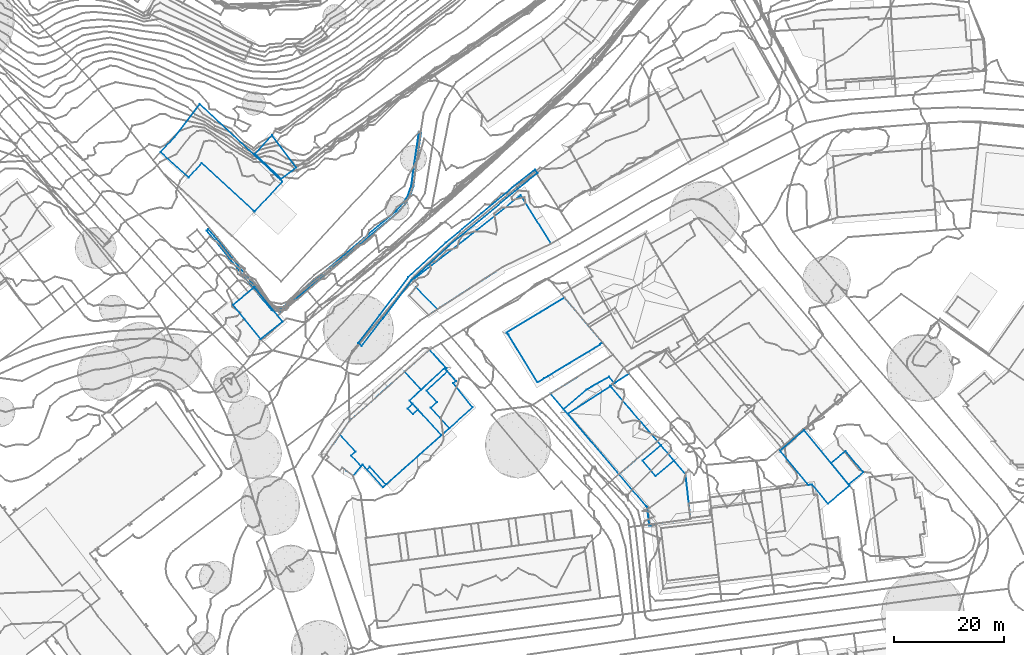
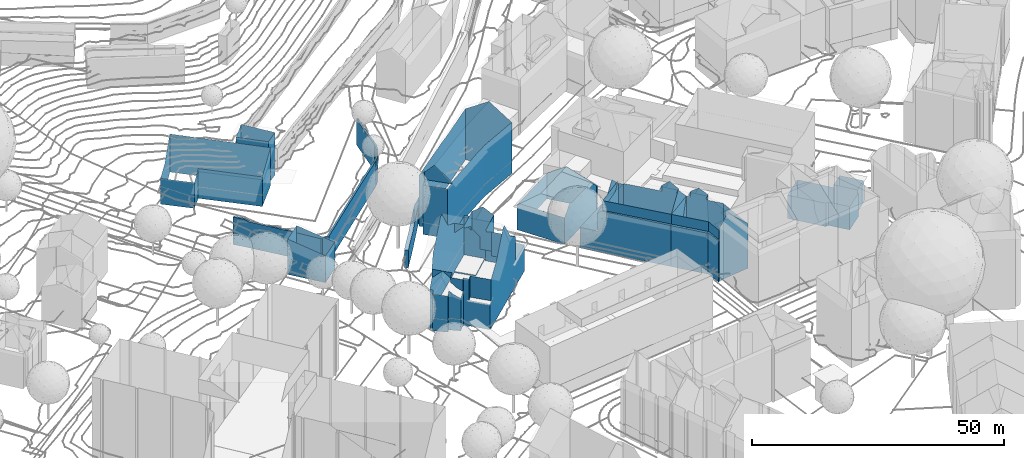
# Not in any storey, part 44 of 494: 12 walls.
"""IFC2X3 model written with IfcOpenShell, lengths in metres."""

import ifcopenshell
import ifcopenshell.guid

model = None  # the IFC model being written
_history = None  # IfcOwnerHistory: only IFC2X3 demands one
_inside = {}  # id of a spatial element -> (the spatial element, [elements in it])
_under = {}  # id of a project, library or spatial element -> (it, [spatial elements below it])
_declared = {}  # id of a project -> (the project, [libraries it declares])
_typed = {}  # id of a type object -> (the type object, [elements of that type])
_made_of = {}  # id of a material, layer set ... -> (it, [elements and type objects made of it])


def new_model(schema):
    """Start an empty IFC model of exactly this schema.

    Asked for "IFC4X3", IfcOpenShell would pick the latest addendum, in which some entities
    have other attributes; the version numbers below select the first issue.
    IFC2X3 requires an IfcOwnerHistory on every rooted entity: one is made here for all.
    """
    global model, _history
    if schema == "IFC4X3":
        model = ifcopenshell.file(schema_version=(4, 3, 0, 0))
    else:
        model = ifcopenshell.file(schema=schema)
    _inside.clear()
    _under.clear()
    _declared.clear()
    _typed.clear()
    _made_of.clear()
    _history = None
    if model.schema == "IFC2X3":
        org = make("IfcOrganization", Name="unknown")
        user = make(
            "IfcPersonAndOrganization",
            ThePerson=make("IfcPerson", FamilyName="unknown"),
            TheOrganization=org,
        )
        app = make(
            "IfcApplication",
            ApplicationDeveloper=org,
            Version="unknown",
            ApplicationFullName="unknown",
            ApplicationIdentifier="unknown",
        )
        _history = make(
            "IfcOwnerHistory",
            OwningUser=user,
            OwningApplication=app,
            ChangeAction="ADDED",
            CreationDate=0,
        )
    return model


def make(cls, **values):
    """One entity of the class cls with the attributes given. An attribute that is None is left unset."""
    return model.create_entity(
        cls, **{name: value for name, value in values.items() if value is not None}
    )


def rooted(cls, **values):
    """An entity with a GlobalId (a new one), such as an element, a storey or a relation."""
    return make(cls, GlobalId=ifcopenshell.guid.new(), OwnerHistory=_history, **values)


def si_unit(unit_type, name, prefix=None):
    """IfcSIUnit, for example si_unit("LENGTHUNIT", "METRE", prefix="MILLI")."""
    return make("IfcSIUnit", UnitType=unit_type, Prefix=prefix, Name=name)


def assignment(units):
    """IfcUnitAssignment: the units of a project."""
    return None if units is None else make("IfcUnitAssignment", Units=units)


def point(xyz):
    """IfcCartesianPoint."""
    return None if xyz is None else make("IfcCartesianPoint", Coordinates=xyz)


def direction(xyz):
    """IfcDirection."""
    return None if xyz is None else make("IfcDirection", DirectionRatios=xyz)


def frame(location, z_axis=None, x_axis=None):
    """IfcAxis2Placement3D, a coordinate frame: its origin and axes. An axis left out is left unset."""
    return make(
        "IfcAxis2Placement3D",
        Location=point(location),
        Axis=direction(z_axis),
        RefDirection=direction(x_axis),
    )


def origin_with_axes():
    """The frame at (0, 0, 0) with the z axis (0, 0, 1) and the x axis (1, 0, 0) written out."""
    return frame((0.0, 0.0, 0.0), z_axis=(0.0, 0.0, 1.0), x_axis=(1.0, 0.0, 0.0))


def place(relative_to, where):
    """IfcLocalPlacement: puts the frame where relative to a parent placement (None: the world)."""
    return make(
        "IfcLocalPlacement", PlacementRelTo=relative_to, RelativePlacement=where
    )


def context(
    kind, dimensions, precision=None, world=None, true_north=None, identifier=None
):
    """IfcGeometricRepresentationContext, for example the 3D "Model" context."""
    return make(
        "IfcGeometricRepresentationContext",
        ContextIdentifier=identifier,
        ContextType=kind,
        CoordinateSpaceDimension=dimensions,
        Precision=precision,
        WorldCoordinateSystem=world,
        TrueNorth=true_north,
    )


def subcontext(parent, identifier, kind, view, scale=None):
    """IfcGeometricRepresentationSubContext, for example "Body" below "Model"."""
    return make(
        "IfcGeometricRepresentationSubContext",
        ContextIdentifier=identifier,
        ContextType=kind,
        ParentContext=parent,
        TargetScale=scale,
        TargetView=view,
    )


def project(units=None, contexts=None):
    """IfcProject with its units and contexts."""
    return rooted(
        "IfcProject",
        Name="project",
        RepresentationContexts=contexts,
        UnitsInContext=assignment(units),
    )


def faces_of(points, faces, orient=None, outer=None):
    """IfcFace entities. A face is a list of loops; a loop is a list of indices into points, from 0.

    orient and outer hold one flag for each loop. By default every Orientation is true, the
    first loop of a face is its IfcFaceOuterBound and the others are IfcFaceBound.
    """
    made = []
    for i, loops in enumerate(faces):
        bounds = []
        for j, loop in enumerate(loops):
            is_outer = j == 0 if outer is None else outer[i][j]
            bounds.append(
                make(
                    "IfcFaceOuterBound" if is_outer else "IfcFaceBound",
                    Bound=make("IfcPolyLoop", Polygon=[points[k] for k in loop]),
                    Orientation=True if orient is None else orient[i][j],
                )
            )
        made.append(make("IfcFace", Bounds=bounds))
    return made


def faceted_brep(points, faces, orient=None, outer=None, voids=None):
    """IfcFacetedBrep: a solid bounded by flat faces; with voids (closed shells), ...WithVoids."""
    shared = [point(p) for p in points]
    hull = make("IfcClosedShell", CfsFaces=faces_of(shared, faces, orient, outer))
    if voids is None:
        return make("IfcFacetedBrep", Outer=hull)
    return make(
        "IfcFacetedBrepWithVoids",
        Outer=hull,
        Voids=[
            make(cls, CfsFaces=faces_of(shared, fs, o, b)) for cls, fs, o, b in voids
        ],
    )


def shape(context_of_items, identifier, shape_type, items):
    """IfcShapeRepresentation: the items that make up one representation, for example the "Body"."""
    return make(
        "IfcShapeRepresentation",
        ContextOfItems=context_of_items,
        RepresentationIdentifier=identifier,
        RepresentationType=shape_type,
        Items=items,
    )


def made_of(thing, what):
    """Note that an element or type object is made of a material, layer set ...; save() writes the relation."""
    if what is not None:
        _made_of.setdefault(what.id(), (what, []))[1].append(thing)
    return thing


def element(
    cls,
    number,
    at=None,
    inside=None,
    cuts=None,
    type_object=None,
    material=None,
    context=None,
    identifier="Body",
    shape_type=None,
    held_by="IfcProductDefinitionShape",
    body=None,
    shapes=None,
    **own,
):
    """One element of the class cls, such as IfcWall. Its Tag is "e" and its number.

    at: its placement. inside: the storey or other place that contains it. cuts: it is an
    opening in that element (IfcRelVoidsElement). A single representation is given by context,
    identifier, shape_type and body (its items); several are given by shapes. held_by: the class
    of the entity that holds the representations. save() writes the other relations.
    """
    e = rooted(cls, Tag="e%d" % number, ObjectPlacement=at, **own)
    if body is not None:
        shapes = [shape(context, identifier, shape_type, body)]
    if shapes is not None:
        e.Representation = make(held_by, Representations=shapes)
    if inside is not None:
        _inside.setdefault(inside.id(), (inside, []))[1].append(e)
    if cuts is not None:
        rooted(
            "IfcRelVoidsElement", RelatingBuildingElement=cuts, RelatedOpeningElement=e
        )
    if type_object is not None:
        _typed.setdefault(type_object.id(), (type_object, []))[1].append(e)
    return made_of(e, material)


def aggregate(whole, parts):
    """IfcRelAggregates: a whole, such as a stair, and the parts it consists of."""
    return rooted("IfcRelAggregates", RelatingObject=whole, RelatedObjects=parts)


def save(model, path):
    """Write the relations noted so far, then the file.

    IfcRelAggregates (storeys below a building ...), IfcRelContainedInSpatialStructure (elements
    in a storey), IfcRelDefinesByType, IfcRelAssociatesMaterial and IfcRelDeclares: one each for
    every whole, place, type object, material and project.
    """
    for whole, parts in _under.values():
        aggregate(whole, parts)
    for where, things in _inside.values():
        rooted(
            "IfcRelContainedInSpatialStructure",
            RelatedElements=things,
            RelatingStructure=where,
        )
    for kind, things in _typed.values():
        rooted("IfcRelDefinesByType", RelatedObjects=things, RelatingType=kind)
    for what, things in _made_of.values():
        rooted("IfcRelAssociatesMaterial", RelatedObjects=things, RelatingMaterial=what)
    for by, libraries in _declared.values():
        rooted("IfcRelDeclares", RelatingContext=by, RelatedDefinitions=libraries)
    model.write(path)


model = new_model("IFC2X3")

# Units and contexts
model_context = context("Model", 3, precision=1e-05, world=origin_with_axes())
body_context = subcontext(model_context, "Body", "Model", "MODEL_VIEW")
ifc_project = project(units=[si_unit("AREAUNIT", "SQUARE_METRE"), si_unit("LENGTHUNIT", "METRE")], contexts=[model_context])

# Walls
wall_1_placement = place(None, frame((211.8297320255, 101.9383160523, 526.7541), z_axis=(0.0, 0.0, 1.0), x_axis=(1.0, 0.0, 0.0)))
element("IfcWall", 1, at=wall_1_placement, Name="Wall 7", context=body_context, shape_type="Brep", body=[
    faceted_brep([(230.3049999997, 142.3515000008, -15.6225), (224.5700000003, 149.4979999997, -21.8519), (230.3049999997, 142.3515000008, -21.8519), (224.887000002, 149.7558000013, -15.5485), (230.6209999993, 142.6094000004, -15.6225), (224.887000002, 149.7558000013, -21.8519), (224.5700000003, 149.4979999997, -15.5485), (223.8020000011, 150.4354999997, -21.8519), (224.1130000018, 150.6992000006, -15.1775), (224.1130000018, 150.6992000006, -21.8519), (223.8020000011, 150.4354999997, -15.1775), (222.3390000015, 152.1053999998, -15.1775), (222.6460000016, 152.3729999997, -15.1775), (222.6460000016, 152.3729999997, -21.8519), (222.3390000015, 152.1055000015, -21.8519), (234.1660000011, 137.6680000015, -15.8445), (234.1660000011, 137.6680000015, -21.8519), (234.381000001, 138.0487999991, -15.8445), (230.6209999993, 142.6094000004, -21.8519), (235.6790000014, 137.8515000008, -21.8519), (234.381000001, 138.0487999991, -21.8519), (251.1520000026, 150.495099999, -15.6225), (235.8020000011, 137.4208999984, -15.6965), (251.1520000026, 150.495099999, -21.8519), (235.6790000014, 137.8515000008, -15.6965), (250.8890000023, 150.807599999, -21.8519), (235.8020000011, 137.4208999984, -21.8519), (257.0040000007, 155.3935000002, -15.6225), (257.0040000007, 155.3935000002, -21.8519), (258.4030000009, 156.9530999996, -15.6225), (258.4030000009, 156.9530999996, -21.8519), (259.2550000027, 158.433600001, -15.6225), (259.2550000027, 158.433600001, -21.8519), (259.8830000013, 160.2391999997, -15.6225), (259.8830000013, 160.2391999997, -21.8519), (260.3660000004, 163.8740000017, -15.6225), (260.3660000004, 163.8740000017, -21.8519), (259.4840000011, 160.3339999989, -15.6225), (259.9620000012, 163.9316000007, -15.6225), (259.4840000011, 160.3339999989, -21.8519), (258.882000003, 158.6044999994, -15.6225), (258.882000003, 158.6044999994, -21.8519), (258.0700000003, 157.1942999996, -15.6225), (258.0700000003, 157.1942999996, -21.8519), (256.7200000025, 155.6875, -15.6225), (256.7200000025, 155.6875, -21.8519), (250.8890000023, 150.807599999, -15.6225), (261.2530000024, 169.8222000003, -15.5485), (261.2530000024, 169.8222000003, -21.8519), (260.8489999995, 169.8828000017, -15.5485), (260.8489999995, 169.8828000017, -21.8519), (259.9620000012, 163.9316000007, -21.8519)], [[[0, 1, 2]], [[3, 4, 5]], [[6, 7, 1]], [[8, 3, 9]], [[10, 11, 7]], [[12, 8, 13]], [[11, 12, 14]], [[15, 2, 16]], [[4, 17, 18]], [[17, 19, 20]], [[21, 22, 23]], [[24, 25, 19]], [[22, 15, 26]], [[27, 21, 28]], [[29, 27, 30]], [[31, 29, 32]], [[33, 31, 34]], [[35, 33, 36]], [[37, 38, 39]], [[40, 37, 41]], [[42, 40, 43]], [[44, 42, 45]], [[46, 44, 25]], [[47, 35, 48]], [[49, 47, 50]], [[38, 50, 51]], [[6, 1, 0]], [[4, 18, 5]], [[10, 7, 6]], [[3, 5, 9]], [[11, 14, 7]], [[8, 9, 13]], [[12, 13, 14]], [[0, 2, 15]], [[17, 20, 18]], [[24, 19, 17]], [[22, 26, 23]], [[46, 25, 24]], [[15, 16, 26]], [[21, 23, 28]], [[27, 28, 30]], [[29, 30, 32]], [[31, 32, 34]], [[33, 34, 36]], [[38, 51, 39]], [[37, 39, 41]], [[40, 41, 43]], [[42, 43, 45]], [[44, 45, 25]], [[35, 36, 48]], [[47, 48, 50]], [[49, 50, 38]]]),
])
wall_2_placement = place(None, frame((211.8297320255, 101.9383160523, 526.7541), z_axis=(0.0, 0.0, 1.0), x_axis=(1.0, 0.0, 0.0)))
element("IfcWall", 2, at=wall_2_placement, Name="Wall 10", context=body_context, shape_type="Brep", body=[
    faceted_brep([(250.4350000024, 131.2080000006, -20.3871), (249.8320000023, 131.75, -20.3871), (250.4350000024, 131.2080000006, -24.7557), (254.3800000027, 136.2890000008, -20.4351), (254.3800000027, 136.2890000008, -24.7557), (253.7380000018, 136.7811999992, -20.4351), (249.8320000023, 131.75, -24.7557), (258.9550000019, 143.6981999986, -24.7556), (253.7380000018, 136.7811999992, -24.7557), (259.5580000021, 143.1543000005, -20.2511), (259.5580000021, 143.1543000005, -24.7556), (266.2190000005, 149.3291000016, -20.0661), (266.2190000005, 149.3291000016, -24.7556), (258.9550000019, 143.6981999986, -20.2511), (265.688000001, 149.9393999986, -24.7556), (265.688000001, 149.9393999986, -20.0661), (272.2770000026, 155.3280999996, -24.7556), (272.7919999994, 154.7050999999, -19.7901), (272.7919999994, 154.7050999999, -24.7556), (272.2770000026, 155.3280999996, -19.7901), (278.2740000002, 160.3418000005, -24.7556), (278.7850000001, 159.7148000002, -19.5141), (278.7850000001, 159.7148000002, -24.7556), (278.2740000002, 160.3418000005, -19.5141), (281.9240000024, 163.2490000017, -24.7556), (282.4279999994, 162.6162, -19.3302), (282.4279999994, 162.6162, -24.7556), (281.9240000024, 163.2490000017, -19.3302)], [[[0, 1, 2]], [[3, 2, 4]], [[1, 5, 6]], [[5, 7, 8]], [[9, 3, 10]], [[11, 9, 12]], [[13, 14, 7]], [[15, 16, 14]], [[17, 11, 18]], [[19, 20, 16]], [[21, 17, 22]], [[23, 24, 20]], [[25, 21, 26]], [[27, 25, 24]], [[1, 6, 2]], [[0, 2, 3]], [[5, 8, 6]], [[13, 7, 5]], [[3, 4, 10]], [[9, 10, 12]], [[15, 14, 13]], [[19, 16, 15]], [[11, 12, 18]], [[23, 20, 19]], [[17, 18, 22]], [[27, 24, 23]], [[21, 22, 26]], [[25, 26, 24]]]),
])
wall_3_placement = place(None, frame((509.0277320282, 209.8641160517, 500.1695), z_axis=(0.0, 0.0, 1.0), x_axis=(1.0, 0.0, 0.0)))
element("IfcWall", 3, at=wall_3_placement, Name="Wall 0", context=body_context, shape_type="Brep", body=[
    faceted_brep([(5.6979999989, -9.128899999, 6.2784), (5.7099999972, -9.2265999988, 9.4261), (5.7249999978, -9.3515999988, 0.0), (5.6979999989, -9.128899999, 0.0), (5.6979999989, -9.128899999, 12.5658), (5.6979999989, -9.128899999, 9.4221), (5.7249999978, -9.3515999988, 12.5738), (5.7249999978, -9.3515999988, 9.4301), (12.0689999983, 0.0302000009, 10.974), (12.9749999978, -8.1699999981, 10.842), (12.0689999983, 0.0302000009, 5.4545), (12.9749999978, -8.1699999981, 0.0), (12.0689999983, 0.0302000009, 0.0), (12.9749999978, -8.1699999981, 8.0992), (12.9749999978, -8.1699999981, 2.6118), (5.3200000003, -5.7509999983, 12.4798), (0.2079999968, 0.1787, 12.4798), (5.3200000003, -5.7509999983, 10.1831), (0.2089999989, 0.1777000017, 10.1091), (5.2179999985, -5.6338, 10.1091), (4.2829999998, 2.4598999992, 0.0), (7.5979999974, 5.2714000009, 0.0), (4.2829999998, 2.4598999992, -0.036), (6.5099999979, 4.3486000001, 12.3829), (7.5979999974, 5.2714000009, 12.3829), (7.5979999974, 5.2714999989, 11.027), (9.9829999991, 2.4756000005, 0.0), (6.6600000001, -0.3438000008, 0.0), (9.9829999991, 2.4756000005, -0.036), (9.9829999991, 2.4756000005, 12.3828), (8.9100000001, 1.5654000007, 12.3828), (9.9829999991, 2.4756000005, 11.045), (5.0979999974, -5.9970999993, 0.0), (5.0979999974, -5.9970999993, 9.9841), (4.9479999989, -5.8213, 0.0), (4.9479999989, -5.8213, 9.8761), (0.0, 0.0, 0.0), (0.0, 0.0, 9.9131), (5.5069999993, -9.3759999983, 10.0611), (5.4809999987, -9.1572999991, 10.0561), (5.5069999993, -9.3759999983, 0.0), (5.4809999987, -9.1572999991, 0.0), (5.6569999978, -9.3594000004, 12.4798), (5.6569999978, -9.3594000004, 10.184), (11.2359999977, -8.3993999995, 0.0), (7.9239999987, -8.8359999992, 0.0), (6.435999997, -9.0313000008, 0.0), (11.2359999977, -8.3993999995, 12.4798), (7.9239999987, -8.8359999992, 15.6195), (0.9890000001, 0.8456999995, 0.0), (3.3189999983, 2.8379000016, 0.0), (3.3189999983, 2.8379000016, 15.6195), (6.993999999, 5.9794999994, 11.022), (6.993999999, 5.9794999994, 0.0), (6.6600000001, -0.3438000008, -0.036), (8.7029999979, 3.9756000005, 13.5887), (8.7029999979, 3.9756000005, -0.036), (11.9649999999, 0.1523000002, 11.06), (7.5979999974, 5.2714000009, -0.036)], [[[0, 1, 2]], [[3, 0, 2]], [[4, 1, 5]], [[0, 5, 1]], [[6, 7, 1]], [[8, 9, 10]], [[10, 11, 12]], [[9, 13, 10]], [[10, 14, 11]], [[15, 16, 17]], [[17, 18, 19]], [[20, 21, 22]], [[23, 24, 25]], [[26, 27, 28]], [[29, 30, 31]], [[32, 33, 34]], [[34, 33, 35]], [[35, 36, 34]], [[36, 35, 37]], [[38, 39, 40]], [[40, 39, 41]], [[41, 33, 32]], [[33, 41, 39]], [[6, 42, 43]], [[43, 38, 7]], [[7, 38, 2]], [[43, 7, 6]], [[2, 38, 40]], [[44, 11, 14]], [[0, 45, 14]], [[45, 44, 14]], [[0, 46, 45]], [[46, 0, 3]], [[47, 48, 4]], [[9, 47, 13]], [[13, 0, 14]], [[0, 13, 5]], [[5, 13, 47]], [[47, 4, 5]], [[49, 36, 37]], [[50, 49, 37]], [[37, 18, 50]], [[16, 51, 52]], [[52, 53, 50]], [[52, 18, 16]], [[52, 50, 18]], [[43, 15, 17]], [[15, 43, 42]], [[54, 27, 20]], [[20, 22, 54]], [[25, 55, 29]], [[10, 25, 31]], [[25, 29, 31]], [[25, 21, 53]], [[25, 24, 55]], [[25, 53, 52]], [[25, 56, 21]], [[31, 57, 10]], [[56, 25, 10]], [[21, 56, 58]], [[12, 26, 10]], [[26, 28, 56]], [[10, 26, 56]], [[10, 57, 8]], [[6, 1, 4]], [[7, 2, 1]], [[13, 14, 10]], [[16, 18, 17]], [[21, 58, 22]], [[27, 54, 28]]]),
])
wall_4_placement = place(None, frame((547.5217320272, 211.8914160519, 499.8985), z_axis=(0.0, 0.0, 1.0), x_axis=(1.0, 0.0, 0.0)))
element("IfcWall", 4, at=wall_4_placement, Name="Wall 0", context=body_context, shape_type="Brep", body=[
    faceted_brep([(2.6569999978, 2.1856000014, 5.3795), (5.8509999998, -1.6992000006, 5.3795), (2.6569999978, 2.1856000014, 0.0), (0.0, 0.0, 5.3795), (0.0, 0.0, 0.0), (3.1939999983, -3.8847999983, 5.3795), (3.1939999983, -3.8847999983, 0.0), (5.8509999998, -1.6992000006, 0.0)], [[[0, 1, 2]], [[3, 0, 4]], [[5, 3, 6]], [[1, 5, 7]], [[1, 7, 2]], [[0, 2, 4]], [[3, 4, 6]], [[5, 6, 7]]]),
])
wall_5_placement = place(None, frame((538.2627320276, 214.1619160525, 498.9856), z_axis=(0.0, 0.0, 1.0), x_axis=(1.0, 0.0, 0.0)))
element("IfcWall", 5, at=wall_5_placement, Name="Wall 0", context=body_context, shape_type="Brep", body=[
    faceted_brep([(5.1739999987, -6.253899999, 5.6425), (0.0, 0.0, 5.6425), (5.1739999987, -6.253899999, 0.0), (5.8339999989, -6.1689000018, 5.6425), (5.8339999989, -6.1689000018, 0.0), (8.699000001, -9.6191000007, 5.6425), (8.699000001, -9.6191000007, 0.0), (12.6369999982, -6.378899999, 5.6425), (12.6369999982, -6.378899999, 0.0), (4.3709999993, 3.6757999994, 5.6425), (4.3709999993, 3.6757999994, 0.0), (0.0, 0.0, 0.0)], [[[0, 1, 2]], [[3, 0, 4]], [[5, 3, 6]], [[7, 5, 8]], [[9, 7, 10]], [[1, 9, 11]], [[1, 11, 2]], [[0, 2, 4]], [[3, 4, 6]], [[5, 6, 8]], [[7, 8, 10]], [[9, 10, 11]]]),
])
wall_6_placement = place(None, frame((496.6027320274, 224.4773160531, 500.1476), z_axis=(0.0, 0.0, 1.0), x_axis=(1.0, 0.0, 0.0)))
element("IfcWall", 6, at=wall_6_placement, Name="Wall 0", context=body_context, shape_type="Brep", body=[
    faceted_brep([(3.2009999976, -3.495099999, 10.131), (3.2009999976, -3.495099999, 12.5018), (3.381000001, -3.3641999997, 10.289), (8.25, 0.1601999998, 10.7389), (9.2129999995, 0.8574999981, 12.5018), (12.6329999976, -14.4345000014, 12.5017), (12.6329999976, -14.4345000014, 10.131), (14.9749999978, -5.6699000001, 12.4048), (16.0869999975, -4.7265000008, 12.4048), (16.0869999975, -4.7265000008, 11.0179), (18.3859999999, -7.4228000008, 12.4048), (17.2879999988, -8.3535000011, 12.4048), (18.3859999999, -7.4228000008, 11.0359), (11.3509999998, 7.0665000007, 4.9925), (14.2529999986, 3.6387000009, 4.9925), (11.3509999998, 7.0665000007, 0.0), (0.0, 0.0, 4.9925), (0.0, 0.0, 0.0), (10.8959999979, 1.3594999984, 0.0221), (3.1209999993, -3.6709000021, 0.0221), (10.8959999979, 1.3594999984, 0.0001), (3.1209999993, -3.6709000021, 0.0), (2.3889999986, -2.8095000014, 9.3461), (6.5099999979, 0.7432000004, 4.9925), (2.3889999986, -2.8095000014, 4.9925), (17.129999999, -5.9492000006, 13.8246), (10.8440000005, 1.4199999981, 10.9779), (10.8440000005, 1.4199999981, 0.0), (19.4189999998, -8.633700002, 0.0219), (19.4189999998, -8.633700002, 11.0439), (11.5889999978, 1.9052999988, 4.9925), (14.2529999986, 3.6387000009, 0.0), (11.5889999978, 1.9052999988, 10.14), (12.4250000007, -14.6123000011, 0.0219), (12.4250000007, -14.6123000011, 9.936), (2.873999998, -3.3808000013, 10.008), (15.743999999, -11.7752999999, 15.6414), (15.743999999, -11.7752999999, 0.0219), (12.6329999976, -14.4345000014, 0.0219), (8.3939999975, 1.808600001, 4.9925), (10.5979999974, 3.0557000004, 10.14), (10.5979999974, 3.0557000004, 4.9925), (6.5099999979, 0.7432000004, 9.3461), (8.3939999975, 1.808600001, 12.5018)], [[[0, 1, 2]], [[1, 3, 2]], [[3, 1, 4]], [[5, 0, 6]], [[7, 8, 9]], [[10, 11, 12]], [[13, 14, 15]], [[16, 13, 17]], [[18, 19, 20]], [[19, 21, 20]], [[22, 23, 24]], [[8, 12, 9]], [[10, 8, 25]], [[18, 26, 9]], [[27, 26, 18]], [[18, 20, 27]], [[9, 12, 28]], [[29, 28, 12]], [[18, 9, 28]], [[12, 8, 10]], [[30, 31, 14]], [[30, 26, 27]], [[26, 30, 32]], [[19, 33, 24]], [[21, 19, 17]], [[33, 34, 24]], [[35, 22, 24]], [[24, 16, 17]], [[24, 17, 19]], [[35, 24, 34]], [[36, 5, 6]], [[28, 29, 37]], [[6, 29, 36]], [[34, 29, 6]], [[33, 38, 29]], [[37, 29, 38]], [[34, 33, 29]], [[39, 23, 40]], [[41, 39, 40]], [[42, 43, 40]], [[42, 40, 23]], [[1, 0, 5]], [[14, 31, 15]], [[13, 15, 17]], [[40, 30, 41]], [[30, 40, 32]], [[42, 23, 22]], [[27, 31, 30]]]),
])
wall_7_placement = place(None, frame((488.6637320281, 235.6004160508, 500.5996), z_axis=(0.0, 0.0, 1.0), x_axis=(1.0, 0.0, 0.0)))
element("IfcWall", 7, at=wall_7_placement, Name="Wall 0", context=body_context, shape_type="Brep", body=[
    faceted_brep([(8.1730000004, -7.5165999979, -0.0001), (7.4959999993, -7.9257999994, 8.8011), (7.5289999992, -7.9052999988, -0.0001), (11.7060000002, -5.3847999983, -0.0001), (10.674999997, -6.0067999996, 8.3551), (8.0629999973, -7.5839999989, 8.3581), (6.7960000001, -8.3486000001, -0.0001), (6.7989999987, -8.3466999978, 7.9512), (5.5909999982, -9.0761999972, 6.4773), (5.5909999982, -9.0761999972, -0.0001), (3.6600000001, -5.9403999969, -0.0001), (2.4509999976, -3.9774999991, 6.4903), (0.2669999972, -0.431599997, 0.0), (0.2759999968, -0.4463, 6.4983), (0.0, 0.0, 0.0), (5.7469999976, 3.4736000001, 6.2084), (6.4139999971, 3.876000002, 0.0), (0.0, 0.0, 6.1634), (10.4849999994, 6.3359000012, 0.0), (0.175999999, -0.2851999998, 6.3763), (10.4849999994, 6.3359000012, 6.2464), (13.1089999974, 3.2393000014, 8.8011), (16.9409999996, -2.2245999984, 6.0794), (16.8889999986, -2.1386999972, -0.0001), (16.8889999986, -2.1386999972, 6.0854), (16.9409999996, -2.2245999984, -0.0001), (17.4029999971, -1.8290999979, -0.0001), (17.2309999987, -1.932599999, 5.7124), (14.8599999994, -3.4804999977, 8.3521), (15.0130000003, -3.3876999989, -0.0001), (17.3189999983, -1.8798999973, 5.7124), (17.4029999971, -1.8290999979, 5.7114)], [[[0, 1, 2]], [[3, 4, 0]], [[4, 5, 0]], [[6, 7, 8]], [[6, 8, 9]], [[10, 8, 11]], [[10, 9, 8]], [[11, 12, 10]], [[11, 13, 12]], [[14, 15, 16]], [[14, 17, 15]], [[15, 18, 16]], [[12, 13, 19]], [[18, 20, 21]], [[22, 23, 24]], [[22, 25, 23]], [[23, 26, 27]], [[24, 23, 27]], [[28, 29, 22]], [[22, 29, 25]], [[30, 27, 26]], [[21, 26, 18]], [[31, 26, 21]], [[7, 2, 1]], [[28, 4, 3]], [[5, 1, 0]], [[2, 7, 6]], [[20, 18, 15]], [[19, 14, 12]], [[17, 14, 19]], [[29, 28, 3]], [[26, 31, 30]]]),
])
wall_8_placement = place(None, frame((455.8447320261, 213.3826160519, 501.6645), z_axis=(0.0, 0.0, 1.0), x_axis=(1.0, 0.0, 0.0)))
element("IfcWall", 8, at=wall_8_placement, Name="Wall 0", context=body_context, shape_type="Brep", body=[
    faceted_brep([(20.1680000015, 9.5879000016, 14.5735), (19.012000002, 8.5196000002, 11.5318), (20.1680000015, 9.5879000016, 5.7334), (16.694000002, 6.376000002, 13.6366), (19.012000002, 8.5196000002, 5.7334), (16.186999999, 5.9072000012, 14.5735), (17.074000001, 12.9345999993, 14.5736), (13.6000000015, 9.7217000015, 13.6366), (13.0930000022, 9.2529999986, 14.5736), (16.6270000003, 12.5205000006, 11.3569), (17.074000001, 12.9345999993, 10.348), (16.6270000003, 12.5205000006, 10.348), (23.1070000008, 12.9658000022, 5.7334), (26.618999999, 8.6055000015, 5.7334), (23.1070000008, 12.9658000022, -0.623), (23.5980000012, 13.4081999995, 5.7334), (23.5980000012, 13.4081999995, -0.623), (21.6150000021, 15.8379000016, -0.304), (21.7829999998, 15.6572000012, -0.304), (21.6150000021, 15.8379000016, -0.623), (15.1530000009, 9.8632999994, -0.623), (15.1530000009, 9.8632999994, -0.601), (17.2719999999, 11.822300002, -0.601), (17.7190000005, 12.2362999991, -0.301), (17.2719999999, 11.822300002, -0.304), (20.9640000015, 3.5791000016, -0.623), (16.6730000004, 8.2188000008, -0.601), (20.9640000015, 3.5791000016, -0.601), (15.7219999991, 9.2481000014, -0.301), (15.7219999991, 9.2481000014, -0.601), (16.6730000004, 8.2188000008, -0.301), (14.2829999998, 15.0547000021, 11.3569), (15.9030000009, 13.3027999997, 11.3569), (14.2829999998, 15.0547000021, 9.0111), (7.943, -2.1805999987, -0.601), (7.943, -2.1805999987, -0.383), (7.4279999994, -2.6581999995, -0.601), (7.4279999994, -2.6581999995, -0.383), (4.5920000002, -0.1327999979, 10.8069), (5.3770000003, 0.5938000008, 9.619), (4.5920000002, -0.1327999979, 9.704), (6.3650000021, -2.0507999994, -0.0001), (4.5920000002, -0.1327999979, 0.0), (6.3650000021, -2.0507999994, -0.601), (5.3770000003, 0.5938000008, 0.0), (2.5340000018, 3.6689999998, 0.0), (5.3770000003, 0.5938000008, -0.601), (10.8940000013, -5.3720000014, -0.383), (10.8940000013, -5.3720000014, -0.601), (7.943, -2.1805999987, 11.2499), (7.4279999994, -2.6581999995, 10.9589), (7.943, -2.1805999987, 6.1014), (10.8940000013, -5.3720000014, 11.2499), (10.8940000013, -5.3720000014, 6.1014), (0.0, 0.0, 4.7085), (0.4869999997, -0.3984000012, 0.0), (0.0, 0.0, 7.0623), (0.0, 0.0, 2.3537), (0.0, 0.0, 0.0), (0.0030000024, -0.9853000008, 0.0), (0.4869999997, -0.3984000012, 9.3981), (2.4530000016, -2.9120999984, -0.0001), (2.4530000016, -2.9120999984, 8.7371), (0.0030000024, -0.9853000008, 8.7781), (2.9230000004, -2.3134999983, 9.3581), (4.5920000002, -0.1327999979, -0.601), (6.3650000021, -2.0507999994, 7.9192), (6.3650000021, -2.0507999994, 10.8069), (5.4479999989, -1.058600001, 8.6451), (4.0590000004, 2.0196000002, 11.2499), (2.5340000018, 3.6689999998, 11.2499), (2.5340000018, 3.6689999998, 9.1651), (5.3770000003, 0.5938000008, 11.2499), (14.8150000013, 8.4092000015, -0.301), (15.7659999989, 7.379900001, -0.301), (14.8150000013, 8.4092000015, -0.601), (22.4000000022, 4.8555000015, 5.7334), (15.7659999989, 7.379900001, -0.601), (16.6270000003, 12.5205000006, -0.301), (14.2829999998, 15.0547000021, -0.601), (14.2829999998, 15.0547000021, -0.304), (22.0179999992, 15.1640999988, 8.7201), (18.2410000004, 11.6709000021, 5.7334), (22.0179999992, 15.1640999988, 5.7334), (18.6240000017, 11.2569000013, 16.1374), (18.2410000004, 11.6709000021, 8.7201), (21.6680000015, 15.5527999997, 9.2151), (21.6680000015, 15.5527999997, -0.623), (21.8430000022, 15.7109999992, 9.2131), (21.8430000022, 15.7109999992, -0.304), (21.7829999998, 15.6572000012, -0.623), (0.2950000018, 0.4600000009, 0.0), (0.2950000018, 0.4600000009, 9.603), (2.5340000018, 3.6689999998, -0.601), (4.2650000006, 6.1504000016, -0.601), (4.2650000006, 6.1504000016, 13.2817), (18.9400000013, 18.938500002, -0.304), (18.811999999, 19.0800999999, -0.304), (18.811999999, 19.0800999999, 9.1281), (21.7329999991, 15.8330000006, -0.304), (18.9400000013, 18.938500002, 9.3161), (21.7329999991, 15.8330000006, 9.3681), (10.3249999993, -5.8779000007, 5.8124), (7.4279999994, -2.6581999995, 5.8344), (10.3249999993, -5.8779000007, -0.383), (6.6119999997, -1.7509999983, -0.601), (6.6119999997, -1.7509999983, 10.9659), (0.1500000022, 0.2353999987, 9.643), (0.0, 0.0, 9.4161), (0.1500000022, 0.2353999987, 0.0), (4.879999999, -3.8524999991, 7.8682), (3.7459999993, -2.9609000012, 8.6451), (3.7459999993, -2.9609000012, -0.0001), (4.879999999, -3.8524999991, -0.0001), (2.9230000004, -2.3134999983, -0.0001), (3.0830000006, -2.4393999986, 9.3561), (4.6510000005, 6.4932000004, -0.601), (7.868999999, 9.3544999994, -0.601), (11.2019999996, 12.316399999, -0.601), (4.6510000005, 6.4932000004, 13.6367), (11.2019999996, 12.316399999, 13.6367), (7.7190000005, 9.2206999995, 18.7982), (8.4019999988, 9.8280999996, 18.7172), (16.5760000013, -0.3222000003, -0.601), (17.175999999, 0.2109999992, -0.601), (20.0399999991, 2.7578000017, 13.6366), (22.4000000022, 4.8555000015, 11.5318), (13.4890000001, -3.0643999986, 13.6366), (26.618999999, 8.6055000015, -0.623), (20.0399999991, 2.7578000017, -0.601), (17.175999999, 0.2109999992, 18.8351), (16.5760000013, -0.3222000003, 18.8281), (13.4890000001, -3.0643999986, -0.601)], [[[0, 1, 2]], [[1, 0, 3]], [[2, 1, 4]], [[5, 3, 0]], [[6, 7, 8]], [[9, 6, 10]], [[6, 9, 7]], [[9, 10, 11]], [[12, 13, 14]], [[15, 12, 16]], [[17, 18, 19]], [[20, 21, 22]], [[23, 17, 19]], [[22, 19, 20]], [[19, 22, 23]], [[23, 22, 24]], [[25, 26, 20]], [[26, 25, 27]], [[28, 29, 30]], [[29, 20, 26]], [[20, 29, 21]], [[31, 32, 33]], [[34, 35, 36]], [[37, 36, 35]], [[38, 39, 40]], [[41, 42, 43]], [[44, 45, 46]], [[47, 35, 48]], [[49, 50, 51]], [[52, 49, 53]], [[54, 55, 56]], [[57, 58, 55]], [[59, 60, 55]], [[61, 62, 59]], [[63, 59, 62]], [[64, 62, 61]], [[65, 42, 44]], [[44, 46, 65]], [[66, 67, 68]], [[67, 40, 68]], [[40, 67, 38]], [[69, 70, 71]], [[72, 69, 39]], [[73, 74, 75]], [[29, 28, 73]], [[73, 75, 29]], [[1, 76, 4]], [[77, 74, 26]], [[30, 26, 74]], [[78, 79, 80]], [[78, 24, 22]], [[32, 9, 11]], [[81, 82, 83]], [[84, 0, 10]], [[10, 6, 84]], [[0, 85, 10]], [[85, 2, 82]], [[2, 85, 0]], [[86, 83, 87]], [[83, 86, 81]], [[87, 83, 16]], [[88, 18, 89]], [[18, 88, 86]], [[18, 87, 90]], [[87, 18, 86]], [[91, 92, 45]], [[93, 45, 94]], [[92, 71, 45]], [[70, 95, 71]], [[94, 71, 95]], [[71, 94, 45]], [[96, 97, 98]], [[89, 99, 98]], [[96, 98, 99]], [[100, 88, 89]], [[101, 88, 100]], [[100, 89, 98]], [[102, 103, 37]], [[37, 104, 102]], [[36, 37, 105]], [[103, 105, 37]], [[50, 106, 105]], [[103, 50, 105]], [[107, 92, 56]], [[56, 108, 107]], [[92, 54, 56]], [[57, 54, 91]], [[109, 58, 57]], [[91, 109, 57]], [[54, 92, 91]], [[110, 111, 112]], [[112, 113, 110]], [[112, 111, 114]], [[64, 114, 111]], [[115, 64, 111]], [[106, 67, 105]], [[67, 66, 105]], [[66, 110, 113]], [[105, 66, 41]], [[113, 41, 66]], [[43, 105, 41]], [[116, 94, 95]], [[95, 117, 116]], [[117, 95, 118]], [[80, 79, 118]], [[95, 80, 118]], [[95, 119, 80]], [[119, 120, 33]], [[120, 119, 121]], [[121, 122, 120]], [[97, 33, 98]], [[97, 80, 33]], [[33, 120, 31]], [[33, 80, 119]], [[123, 124, 76]], [[125, 76, 126]], [[125, 127, 76]], [[13, 76, 128]], [[128, 27, 25]], [[27, 128, 76]], [[124, 129, 76]], [[27, 76, 129]], [[125, 130, 131]], [[127, 53, 76]], [[53, 102, 47]], [[52, 53, 127]], [[76, 53, 123]], [[123, 53, 132]], [[104, 47, 102]], [[47, 48, 132]], [[53, 47, 132]], [[127, 125, 131]], [[13, 128, 14]], [[12, 14, 16]], [[18, 90, 19]], [[29, 26, 30]], [[72, 39, 38]], [[42, 65, 43]], [[45, 93, 46]], [[35, 34, 48]], [[50, 103, 51]], [[49, 51, 53]], [[108, 55, 60]], [[55, 108, 56]], [[54, 57, 55]], [[59, 63, 60]], [[114, 64, 61]], [[74, 77, 75]], [[126, 76, 1]], [[22, 79, 78]], [[85, 82, 81]], [[83, 15, 16]]]),
])
wall_9_placement = place(None, frame((438.9327320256, 240.6023160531, 504.1533), z_axis=(0.0, 0.0, 1.0), x_axis=(1.0, 0.0, 0.0)))
element("IfcWall", 9, at=wall_9_placement, Name="Wall 0", context=body_context, shape_type="Brep", body=[
    faceted_brep([(9.0270000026, -3.0410000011, 0.0), (3.887000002, 3.1845999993, 0.0), (3.887000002, 3.1845999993, 8.5691), (0.0, 0.0, 0.0), (0.0, 0.0, 8.5721), (5.0720000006, -6.2041000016, 6.5083), (5.0720000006, -6.2041000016, 0.0), (9.0270000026, -3.0410000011, 6.4903)], [[[0, 1, 2]], [[3, 4, 2]], [[2, 1, 3]], [[5, 3, 6]], [[4, 3, 5]], [[5, 6, 7]], [[6, 0, 7]], [[7, 0, 2]]]),
])
wall_10_placement = place(None, frame((425.7767320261, 268.3191160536, 508.9989), z_axis=(0.0, 0.0, 1.0), x_axis=(1.0, 0.0, 0.0)))
element("IfcWall", 10, at=wall_10_placement, Name="Wall 0", context=body_context, shape_type="Brep", body=[
    faceted_brep([(7.1429999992, 8.7050999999, 9.2241), (7.1429999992, 8.7050999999, 0.0), (2.5460000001, 2.7441999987, 0.0), (2.5460000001, 2.7441999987, 7.2213), (0.0, 0.0, 0.0), (0.0, 0.0, 6.2204), (5.0830000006, -4.6328000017, 6.2313), (5.0830000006, -4.6328000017, -0.0001), (7.4890000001, -1.9912, -0.0001), (7.4890000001, -1.9912, 7.1853), (17.0710000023, -10.821200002, -0.0001), (22.1209999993, -5.3447000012, -0.0001), (17.0710000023, -10.821200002, 7.1852), (22.1209999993, -5.3447000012, 9.175)], [[[0, 1, 2]], [[0, 2, 3]], [[2, 4, 3]], [[5, 4, 6]], [[4, 7, 6]], [[8, 6, 7]], [[9, 8, 10]], [[11, 12, 10]], [[5, 3, 4]], [[9, 6, 8]], [[9, 10, 12]], [[11, 13, 12]], [[13, 1, 0]], [[13, 11, 1]]]),
])
wall_11_placement = place(None, frame((442.9097320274, 267.9930160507, 509.1738), z_axis=(0.0, 0.0, 1.0), x_axis=(1.0, 0.0, 0.0)))
element("IfcWall", 11, at=wall_11_placement, Name="Wall 0", context=body_context, shape_type="Brep", body=[
    faceted_brep([(3.1079999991, 3.3779000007, 10.228), (7.5339999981, -2.4501999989, 10.228), (3.1079999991, 3.3779000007, 0.0), (0.0, 0.0, 10.228), (0.0, 0.0, 0.0), (4.7719999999, -4.5214999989, 10.228), (4.7719999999, -4.5214999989, 0.0), (7.5339999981, -2.4501999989, 0.0)], [[[0, 1, 2]], [[3, 0, 4]], [[5, 4, 6]], [[1, 5, 7]], [[1, 7, 2]], [[0, 2, 4]], [[3, 4, 5]], [[5, 6, 7]]]),
])
wall_12_placement = place(None, frame((470.9207320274, 242.2430160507, 501.6435), z_axis=(0.0, 0.0, 1.0), x_axis=(1.0, 0.0, 0.0)))
element("IfcWall", 12, at=wall_12_placement, Name="Wall 0", context=body_context, shape_type="Brep", body=[
    faceted_brep([(3.5179999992, -3.4912, 11.9248), (0.0, 0.0, 11.9248), (3.5179999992, -3.4912, 0.0), (1.6409999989, 2.0302000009, -0.013), (0.7089999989, 2.9443000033, 12.2658), (0.7089999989, 2.9443000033, -0.013), (1.2699999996, 1.5713, 11.9248), (1.2699999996, 1.5713, 13.7387), (1.6409999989, 2.0302000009, 13.6077), (1.2699999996, 1.5713, 0.0), (0.0, 0.0, 0.0), (1.2699999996, 1.5713, -0.013), (10.0469999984, 10.1718000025, 12.4688), (12.2749999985, 11.8965000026, 12.3628), (10.0469999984, 10.1718000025, -0.013), (12.2729999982, 11.8955000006, -0.013), (25.7829999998, 9.4521000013, -0.013), (25.7829999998, 9.4521000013, 12.3928), (25.050999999, 9.0996000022, 12.4518), (17.0040000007, 5.2304000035, 12.4058), (17.0040000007, 5.2304000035, -0.013), (20.2749999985, 18.2802000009, -0.013), (20.2749999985, 18.2802000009, 12.3328), (23.068, 13.8037, 15.7995), (12.3990000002, 11.996100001, 12.3548), (19.9019999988, 17.9834000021, 12.3698), (19.9019999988, 17.9834000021, -0.013), (16.8110000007, 5.1054000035, 12.3798), (13.8680000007, 3.2002000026, 12.4958), (13.8680000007, 3.2002000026, -0.013), (5.1559999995, -2.4404999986, 11.9248), (5.6640000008, -2.1142999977, -0.013), (5.6640000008, -2.1142999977, 12.3808), (5.1559999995, -2.4404999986, 12.3758), (5.1559999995, -2.4404999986, -0.013), (5.1559999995, -2.4404999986, 0.0), (2.6719999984, 0.1240000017, 15.7995), (2.6160000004, 0.1816000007, 15.7325), (2.7390000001, 0.0547000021, 15.7205), (2.7390000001, 0.0547000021, 11.9248)], [[[0, 1, 2]], [[3, 4, 5]], [[6, 7, 8]], [[1, 9, 10]], [[6, 3, 9]], [[3, 6, 8]], [[9, 3, 11]], [[12, 13, 14]], [[14, 5, 4]], [[14, 13, 15]], [[14, 4, 12]], [[16, 17, 18]], [[16, 19, 20]], [[19, 16, 18]], [[21, 22, 16]], [[17, 22, 23]], [[17, 16, 22]], [[13, 24, 15]], [[24, 25, 15]], [[25, 22, 26]], [[21, 26, 22]], [[25, 26, 15]], [[27, 28, 20]], [[19, 27, 20]], [[29, 20, 28]], [[29, 30, 31]], [[29, 28, 30]], [[32, 33, 30]], [[0, 31, 30]], [[34, 31, 35]], [[0, 2, 35]], [[31, 0, 35]], [[28, 32, 30]], [[35, 11, 34]], [[11, 35, 9]], [[36, 37, 38]], [[30, 33, 39]], [[38, 39, 33]], [[38, 37, 39]], [[6, 39, 7]], [[7, 39, 37]], [[1, 10, 2]], [[8, 4, 3]], [[6, 9, 1]]]),
])

save(model, "model.ifc")
